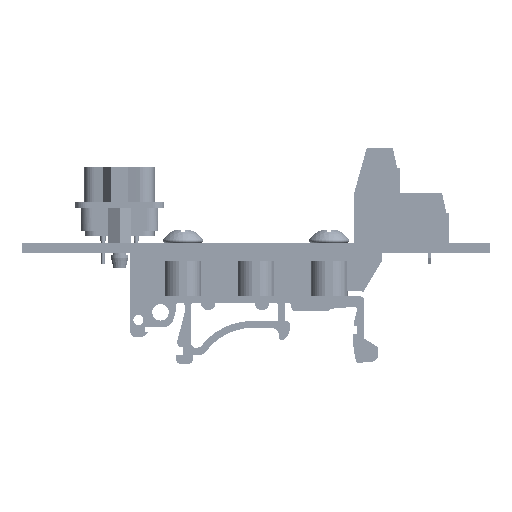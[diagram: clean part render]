
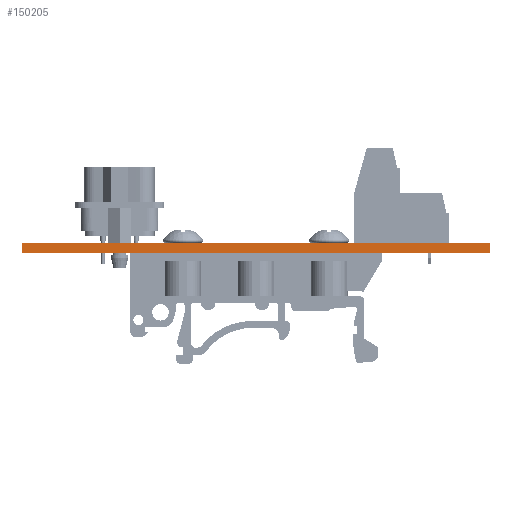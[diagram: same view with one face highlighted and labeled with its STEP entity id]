
A CAD part, front view. The second image highlights one B-rep face of the part: STEP entity #150205.
In plain terms, the highlighted planar face has unit normal (0, -1, 0).
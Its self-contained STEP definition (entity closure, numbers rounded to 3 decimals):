
#7035 = CARTESIAN_POINT ( 'NONE',  ( 232.41, 169.164, -1.6 ) ) ;
#7361 = PLANE ( 'NONE',  #133998 ) ;
#24687 = EDGE_CURVE ( 'NONE', #40393, #124812, #118756, .T. ) ;
#40393 = VERTEX_POINT ( 'NONE', #225528 ) ;
#49942 = ORIENTED_EDGE ( 'NONE', *, *, #416004, .T. ) ;
#59108 = ORIENTED_EDGE ( 'NONE', *, *, #24687, .T. ) ;
#81301 = ORIENTED_EDGE ( 'NONE', *, *, #414888, .F. ) ;
#81712 = EDGE_CURVE ( 'NONE', #40393, #264663, #323776, .T. ) ;
#84991 = LINE ( 'NONE', #337775, #469352 ) ;
#85873 = CARTESIAN_POINT ( 'NONE',  ( 152.4, 169.164, -1.6 ) ) ;
#109176 = LINE ( 'NONE', #151882, #359343 ) ;
#118756 = LINE ( 'NONE', #85873, #368348 ) ;
#124812 = VERTEX_POINT ( 'NONE', #7035 ) ;
#129885 = EDGE_LOOP ( 'NONE', ( #81301, #160929, #59108, #49942 ) ) ;
#133998 = AXIS2_PLACEMENT_3D ( 'NONE', #389315, #428494, #316115 ) ;
#147553 = DIRECTION ( 'NONE',  ( 0., 0., 1. ) ) ;
#150205 = ADVANCED_FACE ( 'NONE', ( #322508 ), #7361, .T. ) ;
#150310 = DIRECTION ( 'NONE',  ( 1., 0., 0. ) ) ;
#151882 = CARTESIAN_POINT ( 'NONE',  ( 152.4, 169.164, 0. ) ) ;
#160929 = ORIENTED_EDGE ( 'NONE', *, *, #81712, .F. ) ;
#172264 = VERTEX_POINT ( 'NONE', #313578 ) ;
#193641 = CARTESIAN_POINT ( 'NONE',  ( 152.4, 169.164, 0. ) ) ;
#225528 = CARTESIAN_POINT ( 'NONE',  ( 152.4, 169.164, -1.6 ) ) ;
#229086 = DIRECTION ( 'NONE',  ( 1., 0., 0. ) ) ;
#264663 = VERTEX_POINT ( 'NONE', #193641 ) ;
#313578 = CARTESIAN_POINT ( 'NONE',  ( 232.41, 169.164, 0. ) ) ;
#316115 = DIRECTION ( 'NONE',  ( 0., 0., -1. ) ) ;
#322508 = FACE_OUTER_BOUND ( 'NONE', #129885, .T. ) ;
#323776 = LINE ( 'NONE', #386873, #434608 ) ;
#337775 = CARTESIAN_POINT ( 'NONE',  ( 232.41, 169.164, -1.6 ) ) ;
#352627 = DIRECTION ( 'NONE',  ( 0., 0., 1. ) ) ;
#359343 = VECTOR ( 'NONE', #150310, 1000. ) ;
#368348 = VECTOR ( 'NONE', #229086, 1000. ) ;
#386873 = CARTESIAN_POINT ( 'NONE',  ( 152.4, 169.164, -1.6 ) ) ;
#389315 = CARTESIAN_POINT ( 'NONE',  ( 152.4, 169.164, -1.6 ) ) ;
#414888 = EDGE_CURVE ( 'NONE', #264663, #172264, #109176, .T. ) ;
#416004 = EDGE_CURVE ( 'NONE', #124812, #172264, #84991, .T. ) ;
#428494 = DIRECTION ( 'NONE',  ( 0., -1., 0. ) ) ;
#434608 = VECTOR ( 'NONE', #352627, 1000. ) ;
#469352 = VECTOR ( 'NONE', #147553, 1000. ) ;
